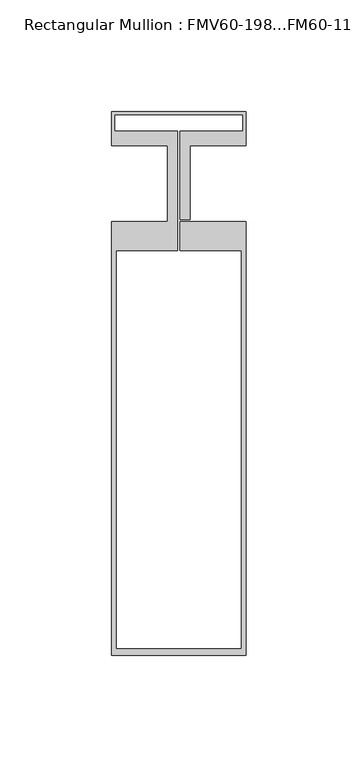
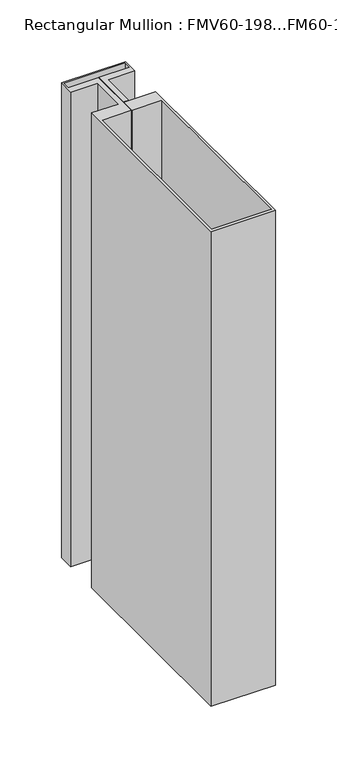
"""IFC4 building model written with IfcOpenShell, lengths in millimetres: member geometry, Rectangular Mullion : FMV60-198...FM60-11 2."""

from ifc_helpers import new_model, si_unit, frame, origin, place, context, project, spatial, polyline, outline, extrude, source, transform, mapped, element, save


def rectangular_mullion_fmv60_198_fm60_11_2_b09c84f9(model_context):
    return source(origin(), model_context, "Body", "SweptSolid", [
        extrude(outline(polyline([(30.0, -13.8999336), (30.0, -207.8989914), (-30.0, -207.8989914), (-30.0, -13.8999336), (-4.9995097, -13.8999336), (-4.9995097, 20.1000664), (-30.0, 20.1000664), (-30.0, 35.1039104), (30.0, 35.1039104), (30.0, 20.1000664), (5.0, 20.1000664), (5.0, -13.0999336), (0.5, -13.0999336), (0.5, 26.5439745), (28.7000412, 26.5439745), (28.7000412, 33.8039104), (-28.7000412, 33.8039104), (-28.7000412, 26.5439745), (-0.5, 26.5439745), (-0.5, -26.8945136), (-28.0, -26.8945136), (-28.0, -204.8989914), (28.0, -204.8989914), (28.0, -26.8945136), (0.5, -26.8945136), (0.5, -13.8999336), (30.0, -13.8999336)])), frame((0.0, 0.0, -470.0), z_axis=(0.0, 0.0, 1.0), x_axis=(1.0, 0.0, 0.0)), (0.0, 0.0, 1.0), 470.0),
    ])


if __name__ == "__main__":
    model = new_model("IFC4")
    model_context = context("Model", 3, world=origin())
    ifc_project = project(units=[si_unit("LENGTHUNIT", "METRE", prefix="MILLI")], contexts=[model_context])
    site = spatial("IfcSite", under=ifc_project)
    building = spatial("IfcBuilding", under=site)
    placement = place(None, origin())
    rectangular_mullion_fmv60_198_fm60_11_2_shape = rectangular_mullion_fmv60_198_fm60_11_2_b09c84f9(model_context)
    element("IfcMember", 1, ObjectType="Rectangular Mullion : FMV60-198...FM60-11 2", at=placement, inside=building, context=model_context, shape_type="MappedRepresentation", body=[
        mapped(rectangular_mullion_fmv60_198_fm60_11_2_shape, transform((0.0, 0.0, 0.0), x_axis=(1.0, 0.0, 0.0), y_axis=(0.0, 1.0, 0.0), z_axis=(0.0, 0.0, 1.0))),
    ])
    save(model, "model.ifc")
